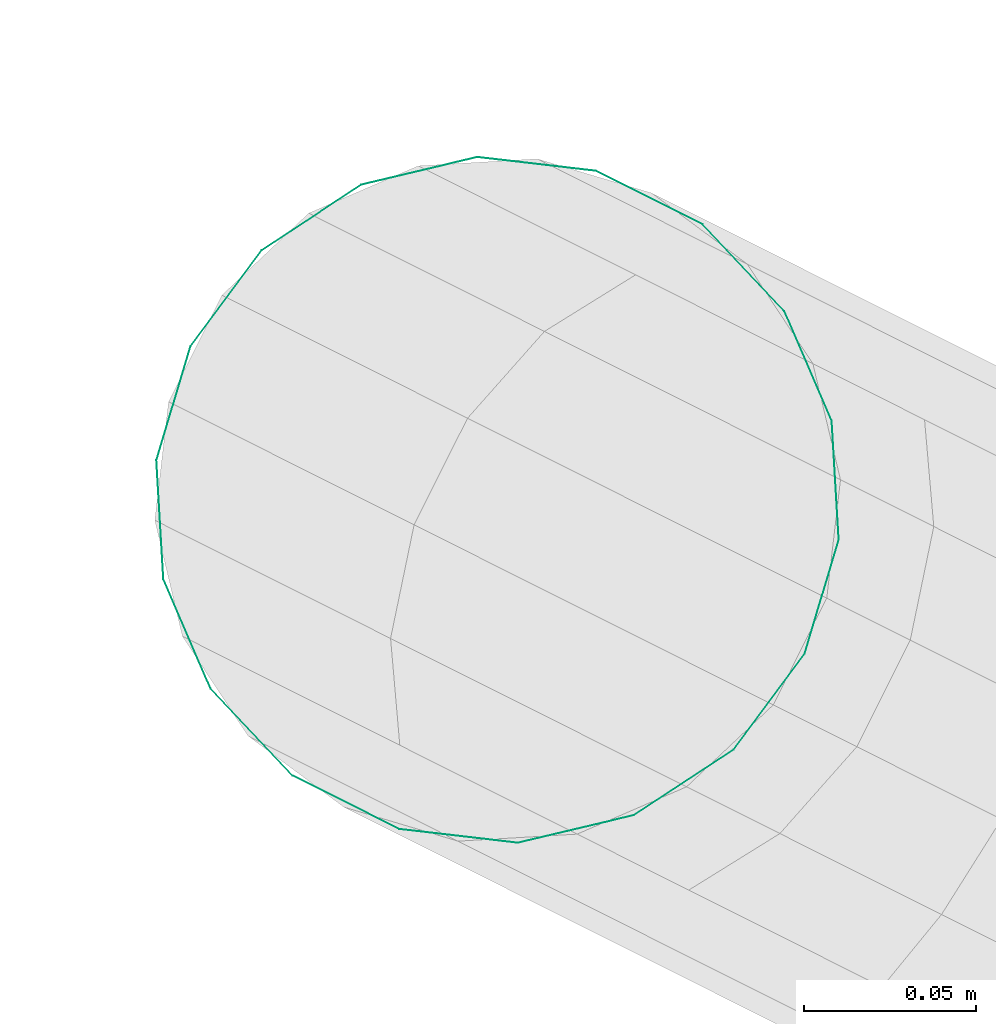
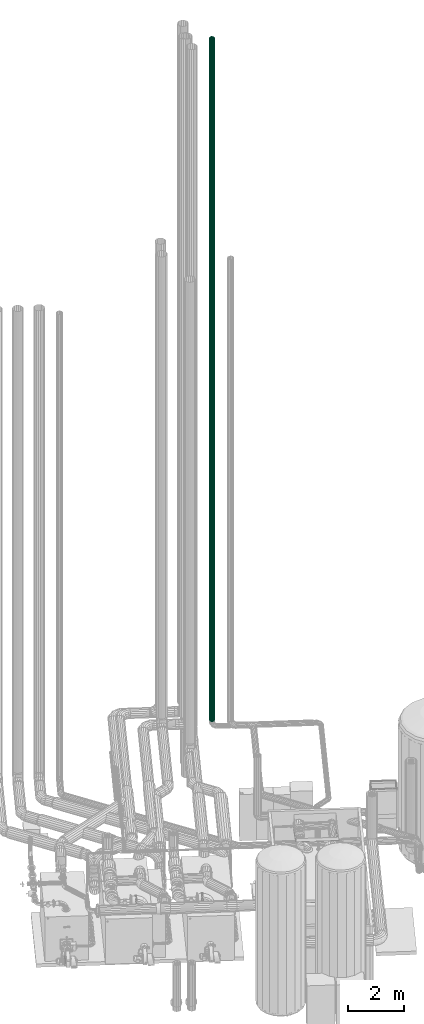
# One storey, part 27 of 206: 1 flow segment.
"""IFC2X3 building model written with IfcOpenShell, lengths in metres."""

from ifc_helpers import new_model, si_unit, derived_unit, direction, frame, origin, place, context, subcontext, project, spatial, face_set, surface_model, source, transform, mapped, material, type_object, type_shapes, element, save


model = new_model("IFC2X3")

# Units and contexts
model_context = context("Model", 3, precision=5.2338327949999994e-05, world=origin(), true_north=direction((0.0, 1.0)))
body_context = subcontext(model_context, "Body", "Model", "MODEL_VIEW")
ifc_project = project(units=[si_unit("LENGTHUNIT", "METRE"), si_unit("AREAUNIT", "SQUARE_METRE"), si_unit("VOLUMEUNIT", "CUBIC_METRE"), si_unit("MASSUNIT", "GRAM", prefix="KILO"), si_unit("PLANEANGLEUNIT", "RADIAN"), derived_unit("THERMALTRANSMITTANCEUNIT", [(si_unit("MASSUNIT", "GRAM", prefix="KILO"), 1), (si_unit("THERMODYNAMICTEMPERATUREUNIT", "KELVIN"), -1), (si_unit("TIMEUNIT", "SECOND"), -3)])], contexts=[model_context])

# Site, building, storey
site_placement = place(None, frame((0.0, 0.0, 0.0), z_axis=(0.0, 0.0, 1.0), x_axis=(0.8939966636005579, -0.4480736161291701, 0.0)))
site = spatial("IfcSite", under=ifc_project, at=site_placement, Name="Default", CompositionType="ELEMENT")
building_placement = place(site_placement, origin())
building = spatial("IfcBuilding", under=site, at=building_placement, CompositionType="ELEMENT")
storey_placement = place(building_placement, origin())
storey = spatial("IfcBuildingStorey", under=building, at=storey_placement, Name="Erdgeschoss", CompositionType="ELEMENT", Elevation=0.0)

# Flow segment
ifc_material = material(Name="IfcSurfaceStyle #251447")
distribution_element_type = type_object("IfcDistributionElementType", Name="Wickelfalzrohr 251493:Wickelfalzrohr 251493", material=ifc_material)
shared_shape = source(origin(), body_context, "Body", "SurfaceModel", [
    surface_model("IfcFaceBasedSurfaceModel", [(27.16938515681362, 16.23711232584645, 2.4499999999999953), (27.175415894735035, 16.202910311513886, 2.4499999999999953), (27.175415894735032, 16.202910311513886, 32.0), (27.169385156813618, 16.23711232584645, 32.0), (27.19278071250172, 16.172833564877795, 2.4499999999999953), (27.19278071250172, 16.172833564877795, 32.0), (27.219385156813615, 16.150509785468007, 2.4499999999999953), (27.219385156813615, 16.150509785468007, 32.0), (27.252020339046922, 16.13863155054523, 2.4499999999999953), (27.252020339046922, 16.13863155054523, 32.0), (27.286749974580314, 16.13863155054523, 2.4499999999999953), (27.286749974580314, 16.13863155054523, 32.0), (27.319385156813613, 16.150509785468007, 2.4499999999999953), (27.319385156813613, 16.150509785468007, 32.0), (27.345989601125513, 16.1728335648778, 2.4499999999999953), (27.345989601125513, 16.1728335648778, 32.0), (27.36335441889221, 16.20291031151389, 2.4499999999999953), (27.36335441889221, 16.20291031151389, 32.0), (27.36938515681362, 16.237112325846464, 2.4499999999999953), (27.369385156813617, 16.23711232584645, 32.0), (27.363354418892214, 16.271314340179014, 2.4499999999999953), (27.363354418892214, 16.271314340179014, 32.0), (27.345989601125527, 16.30139108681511, 2.4499999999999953), (27.345989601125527, 16.30139108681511, 32.0), (27.319385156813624, 16.323714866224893, 2.4499999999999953), (27.319385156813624, 16.323714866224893, 32.0), (27.286749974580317, 16.335593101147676, 2.4499999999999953), (27.286749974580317, 16.335593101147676, 32.0), (27.25202033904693, 16.335593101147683, 2.4499999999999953), (27.25202033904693, 16.335593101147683, 32.0), (27.219385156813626, 16.323714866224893, 2.4499999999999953), (27.219385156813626, 16.323714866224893, 32.0), (27.192780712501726, 16.30139108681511, 2.4499999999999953), (27.192780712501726, 16.30139108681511, 32.0), (27.175415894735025, 16.271314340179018, 2.4499999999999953), (27.175415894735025, 16.271314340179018, 32.0)], [face_set([[[0, 1, 2, 3]], [[1, 4, 5, 2]], [[4, 6, 7, 5]], [[6, 8, 9, 7]], [[8, 10, 11, 9]], [[10, 12, 13, 11]], [[12, 14, 15, 13]], [[14, 16, 17, 15]], [[16, 18, 19, 17]], [[18, 20, 21, 19]], [[20, 22, 23, 21]], [[22, 24, 25, 23]], [[24, 26, 27, 25]], [[26, 28, 29, 27]], [[28, 30, 31, 29]], [[30, 32, 33, 31]], [[32, 34, 35, 33]], [[34, 0, 3, 35]]])]),
])
type_shapes(distribution_element_type, [shared_shape])
flow_segment_placement = place(storey_placement, origin())
element("IfcFlowSegment", 1, at=flow_segment_placement, inside=storey, type_object=distribution_element_type, material=ifc_material, Name="Wickelfalzrohr", ObjectType="Wickelfalzrohr", context=body_context, shape_type="MappedRepresentation", body=[
    mapped(shared_shape, transform((0.0, 0.0, 0.0), scale=1.0)),
])

save(model, "model.ifc")
